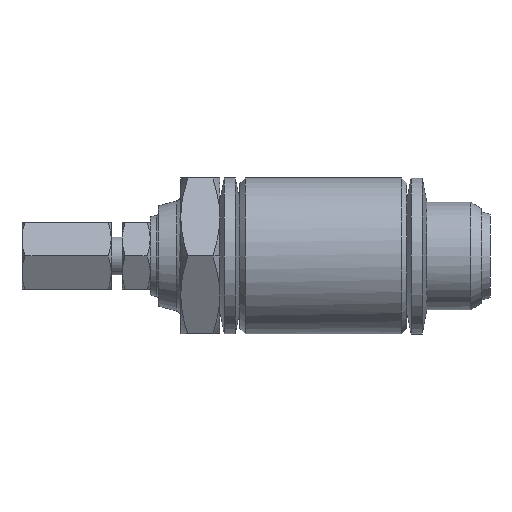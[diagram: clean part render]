
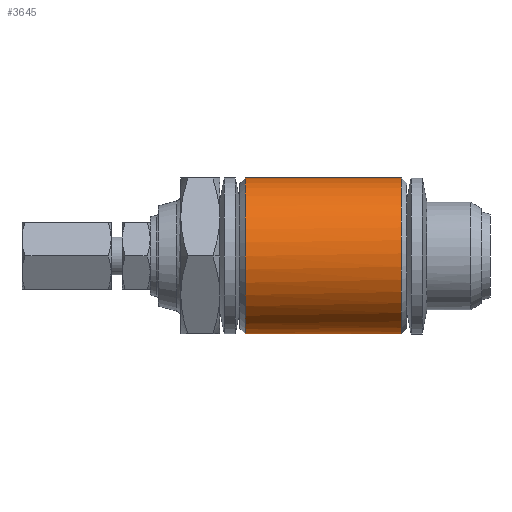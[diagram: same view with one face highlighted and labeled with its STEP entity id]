
A CAD part, left-side view. The second image highlights one B-rep face of the part: STEP entity #3645.
In plain terms, the highlighted cylindrical face has radius 7.021 mm (diameter 14.042 mm), a partial arc.
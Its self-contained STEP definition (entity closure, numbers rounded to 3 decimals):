
#209 = CARTESIAN_POINT ( 'NONE',  ( -0.006, 7.922, -7.021 ) ) ;
#293 = DIRECTION ( 'NONE',  ( 0., 0., -1. ) ) ;
#578 = AXIS2_PLACEMENT_3D ( 'NONE', #6097, #4944, #5518 ) ;
#935 = EDGE_CURVE ( 'NONE', #4897, #2214, #3022, .T. ) ;
#1095 = ORIENTED_EDGE ( 'NONE', *, *, #6804, .T. ) ;
#1443 = DIRECTION ( 'NONE',  ( 0., -1., 0. ) ) ;
#1478 = CIRCLE ( 'NONE', #7351, 7.021 ) ;
#1486 = VECTOR ( 'NONE', #1443, 1000. ) ;
#1608 = CARTESIAN_POINT ( 'NONE',  ( -0.006, 6.418, 7.021 ) ) ;
#1613 = CIRCLE ( 'NONE', #6747, 7.021 ) ;
#1715 = EDGE_CURVE ( 'NONE', #6637, #4897, #1478, .T. ) ;
#1794 = AXIS2_PLACEMENT_3D ( 'NONE', #1917, #6017, #2498 ) ;
#1890 = EDGE_LOOP ( 'NONE', ( #3242, #4710, #5359, #5539, #1095 ) ) ;
#1917 = CARTESIAN_POINT ( 'NONE',  ( -0.006, 7.922, 0. ) ) ;
#1976 = CARTESIAN_POINT ( 'NONE',  ( -0.006, 7.922, 7.021 ) ) ;
#2214 = VERTEX_POINT ( 'NONE', #209 ) ;
#2355 = CARTESIAN_POINT ( 'NONE',  ( -0.006, 21.964, 0. ) ) ;
#2474 = CARTESIAN_POINT ( 'NONE',  ( -0.466, 7.922, -7.006 ) ) ;
#2498 = DIRECTION ( 'NONE',  ( 0., 0., -1. ) ) ;
#2921 = CARTESIAN_POINT ( 'NONE',  ( -0.006, 21.964, 7.021 ) ) ;
#2944 = DIRECTION ( 'NONE',  ( 0., -1., 0. ) ) ;
#2997 = VERTEX_POINT ( 'NONE', #1976 ) ;
#3022 = LINE ( 'NONE', #4208, #1486 ) ;
#3212 = CARTESIAN_POINT ( 'NONE',  ( -0.006, 21.964, -7.021 ) ) ;
#3242 = ORIENTED_EDGE ( 'NONE', *, *, #7441, .F. ) ;
#3531 = DIRECTION ( 'NONE',  ( 0., 0., -1. ) ) ;
#3645 = ADVANCED_FACE ( 'NONE', ( #4128 ), #5503, .T. ) ;
#3756 = DIRECTION ( 'NONE',  ( 0., 1., 0. ) ) ;
#4128 = FACE_OUTER_BOUND ( 'NONE', #1890, .T. ) ;
#4208 = CARTESIAN_POINT ( 'NONE',  ( -0.006, 6.418, -7.021 ) ) ;
#4488 = VERTEX_POINT ( 'NONE', #2474 ) ;
#4710 = ORIENTED_EDGE ( 'NONE', *, *, #1715, .T. ) ;
#4897 = VERTEX_POINT ( 'NONE', #3212 ) ;
#4944 = DIRECTION ( 'NONE',  ( 0., -1., 0. ) ) ;
#5359 = ORIENTED_EDGE ( 'NONE', *, *, #935, .T. ) ;
#5503 = CYLINDRICAL_SURFACE ( 'NONE', #578, 7.021 ) ;
#5518 = DIRECTION ( 'NONE',  ( 0., 0., -1. ) ) ;
#5539 = ORIENTED_EDGE ( 'NONE', *, *, #7220, .T. ) ;
#5615 = CIRCLE ( 'NONE', #1794, 7.021 ) ;
#5699 = DIRECTION ( 'NONE',  ( 0., -1., 0. ) ) ;
#6017 = DIRECTION ( 'NONE',  ( 0., 1., 0. ) ) ;
#6097 = CARTESIAN_POINT ( 'NONE',  ( -0.006, 6.418, 0. ) ) ;
#6637 = VERTEX_POINT ( 'NONE', #2921 ) ;
#6747 = AXIS2_PLACEMENT_3D ( 'NONE', #7279, #3756, #293 ) ;
#6804 = EDGE_CURVE ( 'NONE', #4488, #2997, #5615, .T. ) ;
#6933 = LINE ( 'NONE', #1608, #7106 ) ;
#7106 = VECTOR ( 'NONE', #5699, 1000. ) ;
#7220 = EDGE_CURVE ( 'NONE', #2214, #4488, #1613, .T. ) ;
#7279 = CARTESIAN_POINT ( 'NONE',  ( -0.006, 7.922, 0. ) ) ;
#7351 = AXIS2_PLACEMENT_3D ( 'NONE', #2355, #2944, #3531 ) ;
#7441 = EDGE_CURVE ( 'NONE', #6637, #2997, #6933, .T. ) ;
